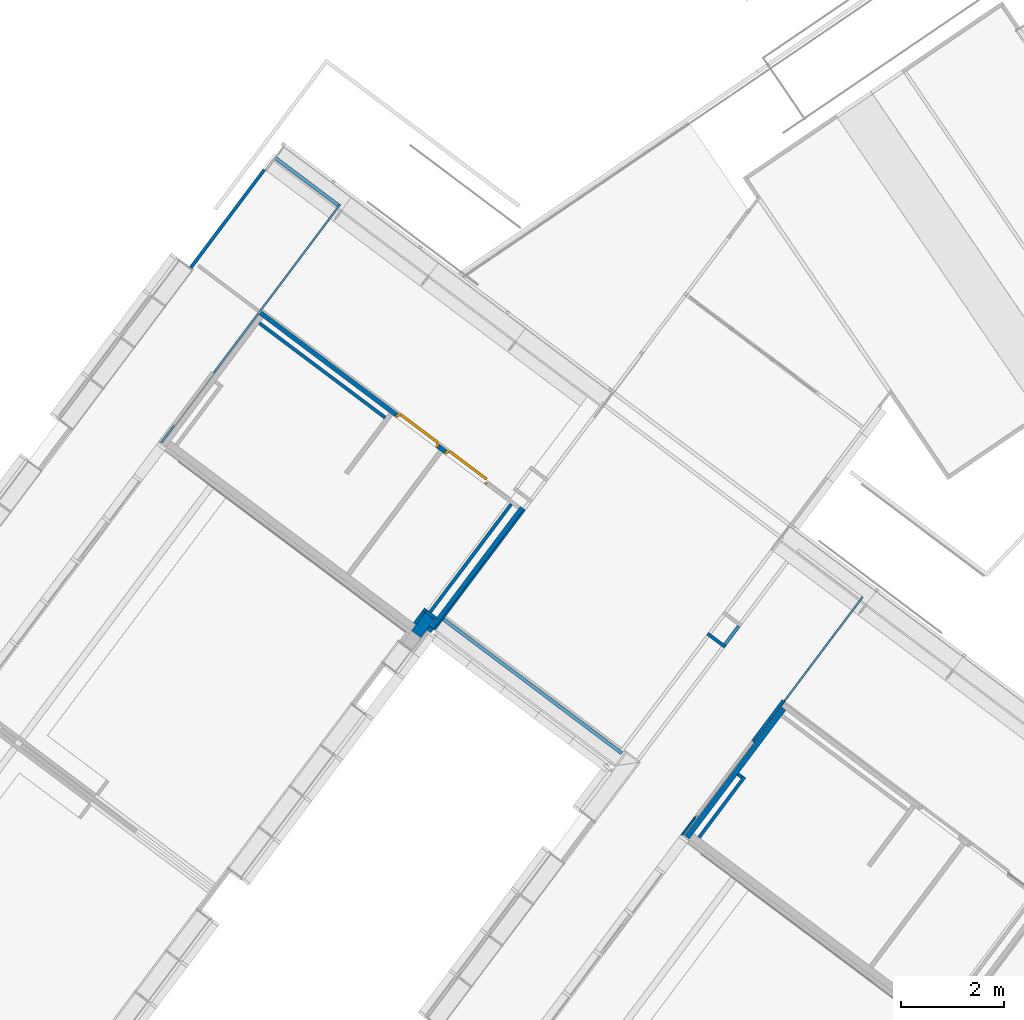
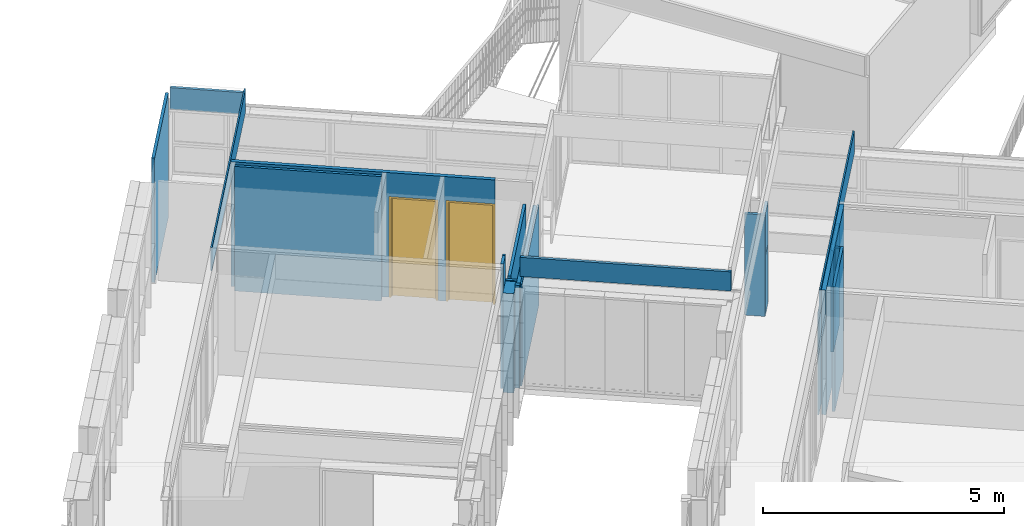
# One storey, part 129 of 243: 23 walls, 2 doors, 2 openings.
"""IFC2X3 building model written with IfcOpenShell, lengths in metres."""

from ifc_helpers import new_model, entity, si_unit, converted_unit, derived_unit, direction, frame, frame_2d, origin, place, context, subcontext, project, spatial, rectangle, extrude, faceted_brep, source, transform, mapped, material, material_list, layer, layer_set, layer_usage, type_object, type_shapes, element, fill, save


model = new_model("IFC2X3")

# Units and contexts
model_context = context("Model", 3, precision=1e-05, world=origin(), true_north=direction((6.123031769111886e-17, 1.0)))
body_context = subcontext(model_context, "Body", "Model", "MODEL_VIEW")
ifc_project = project(units=[si_unit("LENGTHUNIT", "METRE"), si_unit("AREAUNIT", "SQUARE_METRE"), si_unit("VOLUMEUNIT", "CUBIC_METRE"), converted_unit("PLANEANGLEUNIT", "DEGREE", entity("IfcRatioMeasure", 0.017453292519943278), si_unit("PLANEANGLEUNIT", "RADIAN"), dimensions=[0, 0, 0, 0, 0, 0, 0]), si_unit("MASSUNIT", "GRAM", prefix="KILO"), derived_unit("MASSDENSITYUNIT", [(si_unit("MASSUNIT", "GRAM", prefix="KILO"), 1), (si_unit("LENGTHUNIT", "METRE"), -3)]), derived_unit("IONCONCENTRATIONUNIT", [(si_unit("MASSUNIT", "GRAM", prefix="KILO"), 1), (si_unit("LENGTHUNIT", "METRE"), -3)]), derived_unit("MOMENTOFINERTIAUNIT", [(si_unit("LENGTHUNIT", "METRE"), 4)]), si_unit("TIMEUNIT", "SECOND"), si_unit("FREQUENCYUNIT", "HERTZ"), si_unit("THERMODYNAMICTEMPERATUREUNIT", "DEGREE_CELSIUS"), derived_unit("THERMALTRANSMITTANCEUNIT", [(si_unit("MASSUNIT", "GRAM", prefix="KILO"), 1), (si_unit("THERMODYNAMICTEMPERATUREUNIT", "KELVIN"), -1), (si_unit("TIMEUNIT", "SECOND"), -3)]), derived_unit("THERMALCONDUCTANCEUNIT", [(si_unit("MASSUNIT", "GRAM", prefix="KILO"), 1), (si_unit("THERMODYNAMICTEMPERATUREUNIT", "KELVIN"), -1), (si_unit("TIMEUNIT", "SECOND"), -3), (si_unit("LENGTHUNIT", "METRE"), 1)]), derived_unit("VOLUMETRICFLOWRATEUNIT", [(si_unit("LENGTHUNIT", "METRE"), 3), (si_unit("TIMEUNIT", "SECOND"), -1)]), derived_unit("MASSFLOWRATEUNIT", [(si_unit("MASSUNIT", "GRAM", prefix="KILO"), 1), (si_unit("TIMEUNIT", "SECOND"), -1)]), derived_unit("ROTATIONALFREQUENCYUNIT", [(si_unit("TIMEUNIT", "SECOND"), -1)]), si_unit("ELECTRICCURRENTUNIT", "AMPERE"), si_unit("ELECTRICVOLTAGEUNIT", "VOLT"), si_unit("POWERUNIT", "WATT"), si_unit("FORCEUNIT", "NEWTON", prefix="KILO"), si_unit("ILLUMINANCEUNIT", "LUX"), si_unit("LUMINOUSFLUXUNIT", "LUMEN"), si_unit("LUMINOUSINTENSITYUNIT", "CANDELA"), derived_unit("USERDEFINED", [(si_unit("MASSUNIT", "GRAM", prefix="KILO"), -1), (si_unit("LENGTHUNIT", "METRE"), -2), (si_unit("TIMEUNIT", "SECOND"), 3), (si_unit("LUMINOUSFLUXUNIT", "LUMEN"), 1)]), derived_unit("USERDEFINED", [(si_unit("MASSUNIT", "GRAM", prefix="KILO"), 1), (si_unit("TIMEUNIT", "SECOND"), -3), (si_unit("LENGTHUNIT", "METRE"), 3), (si_unit("ELECTRICCURRENTUNIT", "AMPERE"), -2)]), derived_unit("SOUNDPOWERUNIT", [(si_unit("MASSUNIT", "GRAM", prefix="KILO"), 1), (si_unit("TIMEUNIT", "SECOND"), -3), (si_unit("LENGTHUNIT", "METRE"), 2)]), derived_unit("SOUNDPRESSUREUNIT", [(si_unit("MASSUNIT", "GRAM", prefix="KILO"), 1), (si_unit("LENGTHUNIT", "METRE"), -1), (si_unit("TIMEUNIT", "SECOND"), -2)]), derived_unit("LINEARVELOCITYUNIT", [(si_unit("LENGTHUNIT", "METRE"), 1), (si_unit("TIMEUNIT", "SECOND"), -1)]), si_unit("PRESSUREUNIT", "PASCAL"), derived_unit("USERDEFINED", [(si_unit("MASSUNIT", "GRAM", prefix="KILO"), 1), (si_unit("LENGTHUNIT", "METRE"), -2), (si_unit("TIMEUNIT", "SECOND"), -2)]), derived_unit("LINEARFORCEUNIT", [(si_unit("MASSUNIT", "GRAM", prefix="KILO"), 1), (si_unit("TIMEUNIT", "SECOND"), -2)]), derived_unit("PLANARFORCEUNIT", [(si_unit("MASSUNIT", "GRAM", prefix="KILO"), 1), (si_unit("LENGTHUNIT", "METRE"), -1), (si_unit("TIMEUNIT", "SECOND"), -2)]), derived_unit("SPECIFICHEATCAPACITYUNIT", [(si_unit("THERMODYNAMICTEMPERATUREUNIT", "KELVIN"), -1), (si_unit("LENGTHUNIT", "METRE"), 2), (si_unit("TIMEUNIT", "SECOND"), -2)]), derived_unit("HEATINGVALUEUNIT", [(si_unit("LENGTHUNIT", "METRE"), 2), (si_unit("TIMEUNIT", "SECOND"), -2)]), derived_unit("VAPORPERMEABILITYUNIT", [(si_unit("LENGTHUNIT", "METRE"), -1), (si_unit("TIMEUNIT", "SECOND"), 1)]), derived_unit("DYNAMICVISCOSITYUNIT", [(si_unit("MASSUNIT", "GRAM", prefix="KILO"), 1), (si_unit("TIMEUNIT", "SECOND"), -1), (si_unit("LENGTHUNIT", "METRE"), -1)]), derived_unit("THERMALEXPANSIONCOEFFICIENTUNIT", [(si_unit("THERMODYNAMICTEMPERATUREUNIT", "KELVIN"), -1)]), derived_unit("MODULUSOFELASTICITYUNIT", [(si_unit("MASSUNIT", "GRAM", prefix="KILO"), 1), (si_unit("LENGTHUNIT", "METRE"), -1), (si_unit("TIMEUNIT", "SECOND"), -2)]), derived_unit("ISOTHERMALMOISTURECAPACITYUNIT", [(si_unit("LENGTHUNIT", "METRE"), 3), (si_unit("MASSUNIT", "GRAM", prefix="KILO"), -1)]), derived_unit("MOISTUREDIFFUSIVITYUNIT", [(si_unit("TIMEUNIT", "SECOND"), -1), (si_unit("LENGTHUNIT", "METRE"), 2)])], contexts=[model_context])

# Site, building, storey
site_placement = place(None, frame((0.0, 0.0, 235.0), z_axis=(0.0, 0.0, 1.0), x_axis=(-0.7996477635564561, 0.6004693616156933, 0.0)))
site = spatial("IfcSite", under=ifc_project, at=site_placement, Name="Default", CompositionType="ELEMENT")
building_placement = place(site_placement, origin())
building = spatial("IfcBuilding", under=site, at=building_placement, CompositionType="ELEMENT")
storey_placement = place(building_placement, origin())
storey = spatial("IfcBuildingStorey", under=building, at=storey_placement, Name="P0- Escola", CompositionType="ELEMENT", Elevation=0.0)

# Walls
ifc_material_1 = material(Name="_Enguixat i pintat- REV")
ifc_layer_1 = layer(ifc_material_1, 0.01)
ifc_material_2 = material(Name="_Ceràmica- ENV")
ifc_layer_2 = layer(ifc_material_2, 0.09)
ifc_layer_set_1 = layer_set([ifc_layer_1, ifc_layer_2], Name="Muro básico:ENV- Ceràmic- 9 cm + Arrebossat i pintat")
ifc_layer_usage_1 = layer_usage(ifc_layer_set_1, "AXIS2", "POSITIVE", -0.049999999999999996)
wall_type_1 = type_object("IfcWallType", Name="Muro básico:ENV- Ceràmic- 9 cm + Arrebossat i pintat", PredefinedType="STANDARD", material=ifc_layer_set_1)
wall_1_placement = place(storey_placement, frame((60.05014768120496, -39.3801917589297, 0.0), z_axis=(0.0, 0.0, 1.0), x_axis=(0.0, 1.0, 0.0)))
element("IfcWallStandardCase", 1, at=wall_1_placement, inside=storey, type_object=wall_type_1, material=ifc_layer_usage_1, Name="Muro básico:ENV- Ceràmic- 9 cm + Arrebossat i pintat", ObjectType="Muro básico:ENV- Ceràmic- 9 cm + Arrebossat i pintat", context=body_context, shape_type="SweptSolid", body=[
    extrude(rectangle(XDim=3.130000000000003, YDim=0.0999999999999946, at=frame_2d((1.5650000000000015, 0.0), x_axis=(-1.0, 0.0))), origin(), (0.0, 0.0, 1.0), 3.150000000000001),
])
ifc_material_3 = material(Name="_Fusta massisa- T1-  REV- PAV")
ifc_layer_3 = layer(ifc_material_3, 0.015)
ifc_material_4 = material(Name="_Genèric perfils, muntants, rastrells")
ifc_layer_4 = layer(ifc_material_4, 0.05)
ifc_layer_set_2 = layer_set([ifc_layer_3, ifc_layer_4], Name="Muro básico:REV- Fusta- T1- 6,5 cm")
ifc_layer_usage_2 = layer_usage(ifc_layer_set_2, "AXIS2", "NEGATIVE", 0.0325)
wall_type_2 = type_object("IfcWallType", Name="Muro básico:REV- Fusta- T1- 6,5 cm", PredefinedType="STANDARD", material=ifc_layer_set_2)
wall_2_placement = place(storey_placement, frame((60.14764768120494, -38.514691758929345, 0.0), z_axis=(0.0, 0.0, 1.0), x_axis=(0.0, -1.0, 0.0)))
element("IfcWallStandardCase", 2, at=wall_2_placement, inside=storey, type_object=wall_type_2, material=ifc_layer_usage_2, Name="Muro básico:REV- Fusta- T1- 6,5 cm", ObjectType="Muro básico:REV- Fusta- T1- 6,5 cm", context=body_context, shape_type="SweptSolid", body=[
    extrude(rectangle(XDim=0.9905000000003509, YDim=0.06500000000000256, at=frame_2d((0.49525000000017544, 0.0), x_axis=(-1.0, 0.0))), origin(), (0.0, 0.0, 1.0), 2.5650000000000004),
])
wall_3_placement = place(storey_placement, frame((61.71264768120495, -40.140191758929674, 0.0), z_axis=(0.0, 0.0, 1.0), x_axis=(0.0, 1.0, 0.0)))
element("IfcWallStandardCase", 3, at=wall_3_placement, inside=storey, type_object=wall_type_2, material=ifc_layer_usage_2, Name="Muro básico:REV- Fusta- T1- 6,5 cm", ObjectType="Muro básico:REV- Fusta- T1- 6,5 cm", context=body_context, shape_type="SweptSolid", body=[
    extrude(rectangle(XDim=0.45000000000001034, YDim=0.06500000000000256, at=frame_2d((0.22500000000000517, 0.0), x_axis=(-1.0, 0.0))), origin(), (0.0, 0.0, 1.0), 1.4999999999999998),
])
ifc_layer_usage_3 = layer_usage(ifc_layer_set_2, "AXIS2", "POSITIVE", -0.0325)
wall_4_placement = place(storey_placement, frame((62.11014768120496, -39.657691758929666, 0.0), z_axis=(0.0, 0.0, 1.0), x_axis=(-1.0, 0.0, 0.0)))
element("IfcWallStandardCase", 4, at=wall_4_placement, inside=storey, type_object=wall_type_2, material=ifc_layer_usage_3, Name="Muro básico:REV- Fusta- T1- 6,5 cm", ObjectType="Muro básico:REV- Fusta- T1- 6,5 cm", context=body_context, shape_type="SweptSolid", body=[
    extrude(rectangle(XDim=0.4300000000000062, YDim=0.06500000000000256, at=frame_2d((0.2150000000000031, 0.0), x_axis=(-1.0, 0.0))), origin(), (0.0, 0.0, 1.0), 2.5650000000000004),
])
ifc_layer_5 = layer(ifc_material_2, 0.09)
ifc_layer_set_3 = layer_set([ifc_layer_5], Name="Muro básico:ENV- Ceràmic- 9 cm")
ifc_layer_usage_4 = layer_usage(ifc_layer_set_3, "AXIS2", "NEGATIVE", 0.045)
wall_type_3 = type_object("IfcWallType", Name="Muro básico:ENV- Ceràmic- 9 cm", PredefinedType="STANDARD", material=ifc_layer_set_3)
wall_5_placement = place(storey_placement, frame((66.46014768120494, -36.53138994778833, 0.0), z_axis=(0.0, 0.0, 1.0), x_axis=(0.0, -1.0, 0.0)))
element("IfcWallStandardCase", 5, at=wall_5_placement, inside=storey, type_object=wall_type_3, material=ifc_layer_usage_4, Name="Muro básico:ENV- Ceràmic- 9 cm", ObjectType="Muro básico:ENV- Ceràmic- 9 cm", context=body_context, shape_type="SweptSolid", body=[
    extrude(rectangle(XDim=2.918801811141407, YDim=0.08999999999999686, at=frame_2d((1.4594009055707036, -3.122502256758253e-16), x_axis=(-1.0, 0.0))), origin(), (0.0, 0.0, 1.0), 2.5350000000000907),
])
wall_6_placement = place(storey_placement, frame((66.41514768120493, -36.48638994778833, 0.0)))
element("IfcWallStandardCase", 6, at=wall_6_placement, inside=storey, type_object=wall_type_3, material=ifc_layer_usage_4, Name="Muro básico:ENV- Ceràmic- 9 cm", ObjectType="Muro básico:ENV- Ceràmic- 9 cm", context=body_context, shape_type="SweptSolid", body=[
    extrude(rectangle(XDim=0.10000000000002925, YDim=0.08999999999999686, at=frame_2d((0.05000000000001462, 0.0), x_axis=(-1.0, 0.0))), origin(), (0.0, 0.0, 1.0), 2.6000000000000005),
])

# Wall, openings, doors
ifc_layer_usage_5 = layer_usage(ifc_layer_set_3, "AXIS2", "POSITIVE", -0.045)
wall_7_placement = place(storey_placement, frame((67.28814768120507, -39.42519175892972, 0.0)))
wall_7 = element("IfcWallStandardCase", 7, at=wall_7_placement, inside=storey, type_object=wall_type_3, material=ifc_layer_usage_5, Name="Muro básico:ENV- Ceràmic- 9 cm", ObjectType="Muro básico:ENV- Ceràmic- 9 cm", context=body_context, shape_type="SweptSolid", body=[
    extrude(rectangle(XDim=5.51199999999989, YDim=0.08999999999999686, at=frame_2d((2.755999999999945, 8.326672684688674e-17), x_axis=(-1.0, 0.0))), origin(), (0.0, 0.0, 1.0), 3.150000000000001),
])
opening_1_placement = place(wall_7_placement, frame((0.0, -0.045000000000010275, 0.0)))
opening_1 = element("IfcOpeningElement", 8, at=opening_1_placement, cuts=wall_7, Name="FUS- Porta Fusta- marc ocult- obertura corredera:FUS- Porta Fusta- marc ocult- 90x250,5 cm:1", ObjectType="Opening", context=body_context, shape_type="SweptSolid", body=[
    extrude(rectangle(XDim=2.544999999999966, YDim=1.0199999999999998, at=frame_2d((1.272499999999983, 0.5099999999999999), x_axis=(1.0, 0.0))), frame((0.0, 0.0, 0.0), z_axis=(0.0, 1.0, 0.0), x_axis=(0.0, 0.0, 1.0)), (0.0, 0.0, 1.0), 0.09),
])
opening_2_placement = place(wall_7_placement, frame((1.1899999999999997, -0.04500000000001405, 0.0)))
opening_2 = element("IfcOpeningElement", 9, at=opening_2_placement, cuts=wall_7, Name="FUS- Porta Fusta- marc ocult- obertura interior:FUS- Porta Fusta- marc ocult- 90x250,5 cm:1", ObjectType="Opening", context=body_context, shape_type="SweptSolid", body=[
    extrude(rectangle(XDim=2.544999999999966, YDim=1.0199999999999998, at=frame_2d((1.272499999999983, 0.5099999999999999), x_axis=(1.0, 0.0))), frame((0.0, 0.0, 0.0), z_axis=(0.0, 1.0, 0.0), x_axis=(0.0, 0.0, 1.0)), (0.0, 0.0, 1.0), 0.09),
])
ifc_material_5 = material(Name="_Fusta tecnològica- REV- PAV")
ifc_material_list = material_list([ifc_material_5, ifc_material_3])
door_style_1 = type_object("IfcDoorStyle", Name="FUS- Porta Fusta- marc ocult- obertura corredera:FUS- Porta Fusta- marc ocult- 90x250,5 cm", ConstructionType="NOTDEFINED", OperationType="NOTDEFINED", ParameterTakesPrecedence=False, Sizeable=False, material=ifc_material_list)
shared_shape_1 = source(origin(), body_context, "Body", "Brep", [
    faceted_brep([(0.040000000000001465, 0.0, 2.5049999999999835), (0.9799999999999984, 0.0, 2.5049999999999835), (0.9800000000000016, 0.0, 0.0), (1.0099999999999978, 0.0, 0.0), (1.0099999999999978, 0.0, 2.5449999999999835), (0.010000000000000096, 0.0, 2.5449999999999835), (0.010000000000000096, 0.0, 0.0), (0.03999999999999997, 0.0, 0.0), (0.9800000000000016, 0.05500000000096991, 0.0), (0.9800000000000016, 0.05500000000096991, 2.5049999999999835), (1.0099999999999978, 0.010000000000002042, 0.0), (1.0200000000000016, 0.05500000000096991, 0.0), (1.0200000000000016, 0.010000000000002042, 0.0), (1.0099999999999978, 0.010000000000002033, 2.5449999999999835), (0.010000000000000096, 0.010000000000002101, 2.5449999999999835), (0.010000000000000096, 0.010000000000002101, 0.0), (0.0, 0.010000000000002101, 0.0), (0.0, 0.09000000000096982, 0.0), (0.06000000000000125, 0.09000000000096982, 0.0), (0.06000000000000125, 0.04000000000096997, 0.0), (0.03999999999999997, 0.04000000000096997, 0.0), (0.03999999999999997, 0.04000000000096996, 2.5049999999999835), (0.0, 0.09000000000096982, 2.5449999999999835), (0.9599999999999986, 0.09000000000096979, 2.5449999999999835), (0.9599999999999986, 0.09000000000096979, 2.5049999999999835), (0.05999999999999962, 0.09000000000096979, 2.5049999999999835), (0.06000000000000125, 0.07000000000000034, 2.5049999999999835), (0.06000000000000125, 0.04000000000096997, 2.5049999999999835), (0.0, 0.010000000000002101, 2.5449999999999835), (0.9800000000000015, 0.055000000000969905, 2.5449999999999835), (1.0200000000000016, 0.05500000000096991, 2.5449999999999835), (1.0200000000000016, 0.010000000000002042, 2.5449999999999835), (0.9799999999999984, 0.07000000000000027, 2.5449999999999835), (0.9599999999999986, 0.07000000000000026, 2.5449999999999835), (0.9799999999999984, 0.07000000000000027, 2.5049999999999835), (0.9599999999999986, 0.07000000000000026, 2.5049999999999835)], [[[0, 1, 2, 3, 4, 5, 6, 7]], [[8, 2, 1, 9]], [[10, 3, 2, 8, 11, 12]], [[13, 4, 3, 10]], [[5, 14, 15, 6]], [[15, 16, 17, 18, 19, 20, 7, 6]], [[7, 20, 21, 0]], [[22, 23, 24, 25, 18, 17]], [[19, 18, 25, 26, 27]], [[28, 22, 17, 16]], [[29, 30, 11, 8, 9]], [[30, 31, 12, 11]], [[31, 13, 10, 12]], [[14, 28, 16, 15]], [[20, 19, 27, 21]], [[32, 33, 23, 22, 28, 14, 5, 4, 13, 31, 30, 29]], [[33, 32, 34, 35]], [[23, 33, 35, 24]], [[34, 32, 29, 9]], [[25, 24, 35, 34, 9, 1, 0, 21, 27, 26]]]),
    faceted_brep([(0.9599999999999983, 0.12500000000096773, 0.0), (0.9599999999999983, 0.07500000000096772, 0.0), (0.05999999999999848, 0.07500000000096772, 0.0), (0.05999999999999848, 0.12500000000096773, 0.0), (0.9599999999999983, 0.12500000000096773, 2.5050000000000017), (0.9599999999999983, 0.07500000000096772, 2.5050000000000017), (0.05999999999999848, 0.07500000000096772, 2.5050000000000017), (0.05999999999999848, 0.12500000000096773, 2.5050000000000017)], [[[0, 1, 2, 3]], [[4, 5, 1, 0]], [[5, 6, 2, 1]], [[6, 7, 3, 2]], [[7, 4, 0, 3]], [[4, 7, 6, 5]]]),
])
type_shapes(door_style_1, [shared_shape_1])
door_1_placement = place(opening_1_placement, frame((1.0200000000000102, 0.09000000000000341, 0.0), z_axis=(0.0, 0.0, 1.0), x_axis=(-1.0, 0.0, 0.0)))
door_1 = element("IfcDoor", 10, at=door_1_placement, inside=storey, type_object=door_style_1, material=ifc_material_list, Name="FUS- Porta Fusta- marc ocult- obertura corredera:FUS- Porta Fusta- marc ocult- 90x250,5 cm", ObjectType="FUS- Porta Fusta- marc ocult- obertura corredera:FUS- Porta Fusta- marc ocult- 90x250,5 cm", OverallHeight=2.544999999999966, OverallWidth=1.020000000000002, context=body_context, shape_type="MappedRepresentation", body=[
    mapped(shared_shape_1, transform((0.0, 0.0, 0.0), scale=1.0)),
])
fill(opening_1, door_1)
ifc_material_6 = material(Name="_Fusta massisa- T1")
door_style_2 = type_object("IfcDoorStyle", Name="FUS- Porta Fusta- marc ocult- obertura interior:FUS- Porta Fusta- marc ocult- 90x250,5 cm", ConstructionType="NOTDEFINED", OperationType="NOTDEFINED", ParameterTakesPrecedence=False, Sizeable=False, material=ifc_material_6)
shared_shape_2 = source(origin(), body_context, "Body", "Brep", [
    faceted_brep([(1.0100000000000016, 0.0100000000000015, 0.0), (1.0100000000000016, 0.0, 0.0), (0.9800000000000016, 0.0, 0.0), (0.9800000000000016, 0.04000000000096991, 0.0), (0.9599999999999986, 0.04000000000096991, 0.0), (0.9599999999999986, 0.09000000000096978, 0.0), (1.0200000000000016, 0.09000000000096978, 0.0), (1.0200000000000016, 0.0100000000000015, 0.0), (1.0100000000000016, 0.010000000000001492, 2.5449999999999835), (1.0100000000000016, 0.0, 2.5449999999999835), (0.9800000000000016, 0.0, 2.5049999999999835), (0.9800000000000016, 0.04000000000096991, 2.504999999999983), (0.9599999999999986, 0.04000000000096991, 2.5049999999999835), (0.9599999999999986, 0.07000000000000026, 2.5049999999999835), (0.9599999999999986, 0.09000000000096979, 2.5049999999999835), (1.0200000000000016, 0.09000000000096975, 2.5449999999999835), (1.0200000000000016, 0.0100000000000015, 2.5449999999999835), (0.010000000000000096, 0.01000000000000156, 0.0), (0.0, 0.01000000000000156, 0.0), (0.0, 0.09000000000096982, 0.0), (0.06000000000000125, 0.09000000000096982, 0.0), (0.06000000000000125, 0.040000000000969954, 0.0), (0.03999999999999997, 0.04000000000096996, 0.0), (0.03999999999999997, 0.0, 0.0), (0.010000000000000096, 0.0, 0.0), (0.010000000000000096, 0.01000000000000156, 2.5449999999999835), (0.0, 0.01000000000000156, 2.5449999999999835), (0.0, 0.09000000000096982, 2.5449999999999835), (0.06000000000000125, 0.09000000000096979, 2.5049999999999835), (0.06000000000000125, 0.07000000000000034, 2.5049999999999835), (0.06000000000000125, 0.040000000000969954, 2.5049999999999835), (0.040000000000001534, 0.04000000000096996, 2.5049999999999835), (0.03999999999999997, 0.0, 2.5049999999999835), (0.010000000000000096, 0.0, 2.5449999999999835)], [[[0, 1, 2, 3, 4, 5, 6, 7]], [[8, 9, 1, 0]], [[3, 2, 10, 11]], [[4, 3, 11, 12]], [[5, 4, 12, 13, 14]], [[15, 16, 7, 6]], [[16, 8, 0, 7]], [[17, 18, 19, 20, 21, 22, 23, 24]], [[25, 26, 18, 17]], [[26, 27, 19, 18]], [[21, 20, 28, 29, 30]], [[22, 21, 30, 31]], [[23, 22, 31, 32]], [[33, 25, 17, 24]], [[8, 16, 15, 27, 26, 25, 33, 9]], [[28, 14, 13, 12, 11, 10, 32, 31, 30, 29]], [[32, 10, 2, 1, 9, 33, 24, 23]], [[14, 28, 20, 19, 27, 15, 6, 5]]]),
    faceted_brep([(0.9599999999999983, 0.12499999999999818, 0.0), (0.9599999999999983, 0.0749999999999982, 0.0), (0.05999999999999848, 0.0749999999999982, 0.0), (0.05999999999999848, 0.12499999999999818, 0.0), (0.9599999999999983, 0.12499999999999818, 2.5050000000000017), (0.9599999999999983, 0.0749999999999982, 2.5050000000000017), (0.05999999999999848, 0.0749999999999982, 2.5050000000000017), (0.05999999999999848, 0.12499999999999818, 2.5050000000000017)], [[[0, 1, 2, 3]], [[4, 5, 1, 0]], [[5, 6, 2, 1]], [[6, 7, 3, 2]], [[7, 4, 0, 3]], [[4, 7, 6, 5]]]),
])
type_shapes(door_style_2, [shared_shape_2])
door_2_placement = place(opening_2_placement, frame((1.019999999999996, 0.09000000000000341, 0.0), z_axis=(0.0, 0.0, 1.0), x_axis=(-1.0, 0.0, 0.0)))
door_2 = element("IfcDoor", 11, at=door_2_placement, inside=storey, type_object=door_style_2, material=ifc_material_6, Name="FUS- Porta Fusta- marc ocult- obertura interior:FUS- Porta Fusta- marc ocult- 90x250,5 cm", ObjectType="FUS- Porta Fusta- marc ocult- obertura interior:FUS- Porta Fusta- marc ocult- 90x250,5 cm", OverallHeight=2.544999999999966, OverallWidth=1.020000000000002, context=body_context, shape_type="MappedRepresentation", body=[
    mapped(shared_shape_2, transform((0.0, 0.0, 0.0), scale=1.0)),
])
fill(opening_2, door_2)

# Walls
ifc_layer_6 = layer(ifc_material_3, 0.015)
ifc_layer_7 = layer(ifc_material_4, 0.02)
ifc_layer_set_4 = layer_set([ifc_layer_6, ifc_layer_7], Name="Muro básico:REV- Fusta- T1- 3,5 cm")
ifc_layer_usage_6 = layer_usage(ifc_layer_set_4, "AXIS2", "POSITIVE", -0.0175)
wall_type_4 = type_object("IfcWallType", Name="Muro básico:REV- Fusta- T1- 3,5 cm", PredefinedType="STANDARD", material=ifc_layer_set_4)
wall_8_placement = place(storey_placement, frame((66.39764768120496, -36.535191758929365, 0.0), z_axis=(0.0, 0.0, 1.0), x_axis=(0.0, -1.0, 0.0)))
element("IfcWallStandardCase", 12, at=wall_8_placement, inside=storey, type_object=wall_type_4, material=ifc_layer_usage_6, Name="Muro básico:REV- Fusta- T1- 3,5 cm", ObjectType="Muro básico:REV- Fusta- T1- 3,5 cm", context=body_context, shape_type="SweptSolid", body=[
    extrude(rectangle(XDim=2.9150000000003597, YDim=0.034999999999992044, at=frame_2d((1.4575000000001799, 3.642919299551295e-17), x_axis=(-1.0, 0.0))), origin(), (0.0, 0.0, 1.0), 2.5649999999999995),
])
ifc_layer_usage_7 = layer_usage(ifc_layer_set_4, "AXIS2", "NEGATIVE", 0.0175)
wall_9_placement = place(storey_placement, frame((60.16264768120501, -36.2201899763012, 0.0), z_axis=(0.0, 0.0, 1.0), x_axis=(0.0, -1.0, 0.0)))
element("IfcWallStandardCase", 13, at=wall_9_placement, inside=storey, type_object=wall_type_4, material=ifc_layer_usage_7, Name="Muro básico:REV- Fusta- T1- 3,5 cm", ObjectType="Muro básico:REV- Fusta- T1- 3,5 cm", context=body_context, shape_type="SweptSolid", body=[
    extrude(rectangle(XDim=0.4500000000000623, YDim=0.034999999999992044, at=frame_2d((0.22500000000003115, 0.0), x_axis=(-1.0, 0.0))), origin(), (0.0, 0.0, 1.0), 2.565),
])
ifc_material_7 = material(Name="_Guix laminat- ENV")
ifc_layer_8 = layer(ifc_material_7, 0.02)
ifc_material_8 = material(Name="_Aillament")
ifc_layer_9 = layer(ifc_material_8, 0.045)
ifc_layer_set_5 = layer_set([ifc_layer_8, ifc_layer_9], Name="Muro básico:REV- Guix Laminat Extradossat- Aillament- T1- 6,5 cm")
ifc_layer_usage_8 = layer_usage(ifc_layer_set_5, "AXIS2", "POSITIVE", -0.032499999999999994)
wall_type_5 = type_object("IfcWallType", Name="Muro básico:REV- Guix Laminat Extradossat- Aillament- T1- 6,5 cm", PredefinedType="STANDARD", material=ifc_layer_set_5)
wall_10_placement = place(storey_placement, frame((59.86264768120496, -36.390191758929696, 0.0), z_axis=(0.0, 0.0, 1.0), x_axis=(0.0, -1.0, 0.0)))
element("IfcWallStandardCase", 14, at=wall_10_placement, inside=storey, type_object=wall_type_5, material=ifc_layer_usage_8, Name="Muro básico:REV- Guix Laminat Extradossat- Aillament- T1- 6,5 cm", ObjectType="Muro básico:REV- Guix Laminat Extradossat- Aillament- T1- 6,5 cm", context=body_context, shape_type="SweptSolid", body=[
    extrude(rectangle(XDim=1.4699999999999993, YDim=0.06500000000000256, at=frame_2d((0.7349999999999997, 0.0), x_axis=(-1.0, 0.0))), origin(), (0.0, 0.0, 1.0), 3.150000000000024),
])
wall_11_placement = place(storey_placement, frame((59.89514768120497, -37.827691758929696, 0.0)))
element("IfcWallStandardCase", 15, at=wall_11_placement, inside=storey, type_object=wall_type_5, material=ifc_layer_usage_8, Name="Muro básico:REV- Guix Laminat Extradossat- Aillament- T1- 6,5 cm", ObjectType="Muro básico:REV- Guix Laminat Extradossat- Aillament- T1- 6,5 cm", context=body_context, shape_type="SweptSolid", body=[
    extrude(rectangle(XDim=0.10500000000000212, YDim=0.06500000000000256, at=frame_2d((0.05250000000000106, 0.0), x_axis=(-1.0, 0.0))), origin(), (0.0, 0.0, 1.0), 3.150000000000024),
])
wall_12_placement = place(storey_placement, frame((74.38014768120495, -42.00769175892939, 2.535000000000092), z_axis=(0.0, 0.0, 1.0), x_axis=(-1.0, 0.0, 0.0)))
element("IfcWallStandardCase", 16, at=wall_12_placement, inside=storey, type_object=wall_type_5, material=ifc_layer_usage_8, Name="Muro básico:REV- Guix Laminat Extradossat- Aillament- T1- 6,5 cm", ObjectType="Muro básico:REV- Guix Laminat Extradossat- Aillament- T1- 6,5 cm", context=body_context, shape_type="SweptSolid", body=[
    extrude(rectangle(XDim=1.5350000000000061, YDim=0.06500000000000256, at=frame_2d((0.7675000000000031, 0.0), x_axis=(-1.0, 0.0))), origin(), (0.0, 0.0, 1.0), 0.5499999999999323),
])
ifc_layer_usage_9 = layer_usage(ifc_layer_set_5, "AXIS2", "NEGATIVE", 0.032499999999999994)
wall_13_placement = place(storey_placement, frame((66.44514768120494, -36.7976917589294, 2.6000000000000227), z_axis=(0.0, 0.0, 1.0), x_axis=(-1.0, 0.0, 0.0)))
element("IfcWallStandardCase", 17, at=wall_13_placement, inside=storey, type_object=wall_type_5, material=ifc_layer_usage_9, Name="Muro básico:REV- Guix Laminat Extradossat- Aillament- T1- 6,5 cm", ObjectType="Muro básico:REV- Guix Laminat Extradossat- Aillament- T1- 6,5 cm", context=body_context, shape_type="SweptSolid", body=[
    extrude(rectangle(XDim=4.40000814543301, YDim=0.06500000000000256, at=frame_2d((2.200004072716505, 9.71445146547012e-17), x_axis=(-1.0, 0.0))), origin(), (0.0, 0.0, 1.0), 0.48500000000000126),
])
wall_14_placement = place(storey_placement, frame((66.67264768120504, -39.380191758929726, 0.0), z_axis=(0.0, 0.0, 1.0), x_axis=(0.0, 1.0, 0.0)))
element("IfcWallStandardCase", 18, at=wall_14_placement, inside=storey, type_object=wall_type_5, material=ifc_layer_usage_8, Name="Muro básico:REV- Guix Laminat Extradossat- Aillament- T1- 6,5 cm", ObjectType="Muro básico:REV- Guix Laminat Extradossat- Aillament- T1- 6,5 cm", context=body_context, shape_type="SweptSolid", body=[
    extrude(rectangle(XDim=2.6250000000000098, YDim=0.06500000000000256, at=frame_2d((1.3125000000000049, 0.0), x_axis=(-1.0, 0.0))), origin(), (0.0, 0.0, 1.0), 2.6000000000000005),
])
wall_15_placement = place(storey_placement, frame((66.50514768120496, -36.72269175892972, 0.0)))
element("IfcWallStandardCase", 19, at=wall_15_placement, inside=storey, type_object=wall_type_5, material=ifc_layer_usage_8, Name="Muro básico:REV- Guix Laminat Extradossat- Aillament- T1- 6,5 cm", ObjectType="Muro básico:REV- Guix Laminat Extradossat- Aillament- T1- 6,5 cm", context=body_context, shape_type="SweptSolid", body=[
    extrude(rectangle(XDim=0.23999999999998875, YDim=0.06500000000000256, at=frame_2d((0.11999999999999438, 0.0), x_axis=(-1.0, 0.0))), origin(), (0.0, 0.0, 1.0), 2.535000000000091),
])
wall_16_placement = place(storey_placement, frame((66.77764768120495, -36.69019175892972, 0.0), z_axis=(0.0, 0.0, 1.0), x_axis=(0.0, 1.0, 0.0)))
element("IfcWallStandardCase", 20, at=wall_16_placement, inside=storey, type_object=wall_type_5, material=ifc_layer_usage_8, Name="Muro básico:REV- Guix Laminat Extradossat- Aillament- T1- 6,5 cm", ObjectType="Muro básico:REV- Guix Laminat Extradossat- Aillament- T1- 6,5 cm", context=body_context, shape_type="SweptSolid", body=[
    extrude(rectangle(XDim=0.29500000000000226, YDim=0.06500000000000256, at=frame_2d((0.14750000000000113, 0.0), x_axis=(-1.0, 0.0))), origin(), (0.0, 0.0, 1.0), 3.150000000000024),
])
wall_17_placement = place(storey_placement, frame((72.70014768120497, -39.25269175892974, 0.0), z_axis=(0.0, 0.0, 1.0), x_axis=(-1.0, 0.0, 0.0)))
element("IfcWallStandardCase", 21, at=wall_17_placement, inside=storey, type_object=wall_type_5, material=ifc_layer_usage_8, Name="Muro básico:REV- Guix Laminat Extradossat- Aillament- T1- 6,5 cm", ObjectType="Muro básico:REV- Guix Laminat Extradossat- Aillament- T1- 6,5 cm", context=body_context, shape_type="SweptSolid", body=[
    extrude(rectangle(XDim=3.061999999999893, YDim=0.06500000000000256, at=frame_2d((1.5309999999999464, -1.3530843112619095e-16), x_axis=(-1.0, 0.0))), origin(), (0.0, 0.0, 1.0), 3.150000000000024),
])
wall_18_placement = place(storey_placement, frame((66.74514768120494, -36.72269175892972, 0.0)))
element("IfcWallStandardCase", 22, at=wall_18_placement, inside=storey, type_object=wall_type_5, material=ifc_layer_usage_8, Name="Muro básico:REV- Guix Laminat Extradossat- Aillament- T1- 6,5 cm", ObjectType="Muro básico:REV- Guix Laminat Extradossat- Aillament- T1- 6,5 cm", context=body_context, shape_type="SweptSolid", body=[
    extrude(rectangle(XDim=0.06500000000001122, YDim=0.06500000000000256, at=frame_2d((0.03250000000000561, 0.0), x_axis=(-1.0, 0.0))), origin(), (0.0, 0.0, 1.0), 3.150000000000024),
])
wall_19_placement = place(storey_placement, frame((74.41264768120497, -39.31519175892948, 0.0), z_axis=(0.0, 0.0, 1.0), x_axis=(0.0, -1.0, 0.0)))
element("IfcWallStandardCase", 23, at=wall_19_placement, inside=storey, type_object=wall_type_5, material=ifc_layer_usage_8, Name="Muro básico:REV- Guix Laminat Extradossat- Aillament- T1- 6,5 cm", ObjectType="Muro básico:REV- Guix Laminat Extradossat- Aillament- T1- 6,5 cm", context=body_context, shape_type="SweptSolid", body=[
    extrude(rectangle(XDim=2.3799999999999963, YDim=0.06500000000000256, at=frame_2d((1.1899999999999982, 2.0816681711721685e-17), x_axis=(-1.0, 0.0))), origin(), (0.0, 0.0, 1.0), 3.150000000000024),
])
ifc_layer_10 = layer(ifc_material_2, 0.23)
ifc_layer_set_6 = layer_set([ifc_layer_10], Name="Muro básico:ENV- Ceràmic Replè- 23 cm")
ifc_layer_usage_10 = layer_usage(ifc_layer_set_6, "AXIS2", "POSITIVE", -0.115)
wall_type_6 = type_object("IfcWallType", Name="Muro básico:ENV- Ceràmic Replè- 23 cm", PredefinedType="STANDARD", material=ifc_layer_set_6)
wall_20_placement = place(storey_placement, frame((66.63014768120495, -36.25019175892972, 0.0), z_axis=(0.0, 0.0, 1.0), x_axis=(0.0, -1.0, 0.0)))
element("IfcWallStandardCase", 24, at=wall_20_placement, inside=storey, type_object=wall_type_6, material=ifc_layer_usage_10, Name="Muro básico:ENV- Ceràmic Replè- 23 cm", ObjectType="Muro básico:ENV- Ceràmic Replè- 23 cm", context=body_context, shape_type="SweptSolid", body=[
    extrude(rectangle(XDim=0.4399999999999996, YDim=0.2299999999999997, at=frame_2d((0.2199999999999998, 0.0), x_axis=(-1.0, 0.0))), origin(), (0.0, 0.0, 1.0), 2.514054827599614),
])
ifc_layer_11 = layer(ifc_material_7, 0.02)
ifc_layer_12 = layer(ifc_material_8, 0.015)
ifc_layer_set_7 = layer_set([ifc_layer_11, ifc_layer_12], Name="Muro básico:REV- Guix Laminat Extradossat- Aillament- T1- 3,5 cm")
ifc_layer_usage_11 = layer_usage(ifc_layer_set_7, "AXIS2", "POSITIVE", -0.017499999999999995)
wall_type_7 = type_object("IfcWallType", Name="Muro básico:REV- Guix Laminat Extradossat- Aillament- T1- 3,5 cm", PredefinedType="STANDARD", material=ifc_layer_set_7)
for number, where, z_axis, x_axis, name in (
    (25, (60.127647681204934, -42.04019175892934, 2.565), (0.0, 0.0, 1.0), (0.0, 1.0, 0.0), "Muro básico:REV- Guix Laminat Extradossat- Aillament- T1- 3,5 cm"),
    (26, (72.82764768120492, -42.04019175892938, 2.565), (0.0, 0.0, 1.0), (0.0, 1.0, 0.0), "Muro básico:REV- Guix Laminat Extradossat- Aillament- T1- 3,5 cm"),
):
    element("IfcWallStandardCase", number, at=place(storey_placement, frame(where, z_axis=z_axis, x_axis=x_axis)), inside=storey, type_object=wall_type_7, material=ifc_layer_usage_11, Name=name, ObjectType="Muro básico:REV- Guix Laminat Extradossat- Aillament- T1- 3,5 cm", context=body_context, shape_type="SweptSolid", body=[
        extrude(rectangle(XDim=5.7899999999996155, YDim=0.034999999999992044, at=frame_2d((2.8949999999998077, 0.0), x_axis=(-1.0, 0.0))), origin(), (0.0, 0.0, 1.0), 0.5850000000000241),
    ])
ifc_layer_13 = layer(ifc_material_7, 0.015)
ifc_layer_14 = layer(ifc_material_4, 0.05)
ifc_layer_set_8 = layer_set([ifc_layer_13, ifc_layer_14], Name="Muro básico:REV- Guix Laminat Extradossat- T1- 6,5 cm")
ifc_layer_usage_12 = layer_usage(ifc_layer_set_8, "AXIS2", "NEGATIVE", 0.0325)
wall_type_8 = type_object("IfcWallType", Name="Muro básico:REV- Guix Laminat Extradossat- T1- 6,5 cm", PredefinedType="STANDARD", material=ifc_layer_set_8)
wall_21_placement = place(storey_placement, frame((61.71264768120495, -40.140191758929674, 1.5000000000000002), z_axis=(0.0, 0.0, 1.0), x_axis=(0.0, 1.0, 0.0)))
element("IfcWallStandardCase", 27, at=wall_21_placement, inside=storey, type_object=wall_type_8, material=ifc_layer_usage_12, Name="Muro básico:REV- Guix Laminat Extradossat- T1- 6,5 cm", ObjectType="Muro básico:REV- Guix Laminat Extradossat- T1- 6,5 cm", context=body_context, shape_type="SweptSolid", body=[
    extrude(rectangle(XDim=0.45000000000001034, YDim=0.06500000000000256, at=frame_2d((0.22500000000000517, 0.0), x_axis=(-1.0, 0.0))), origin(), (0.0, 0.0, 1.0), 1.0650000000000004),
])

save(model, "model.ifc")
